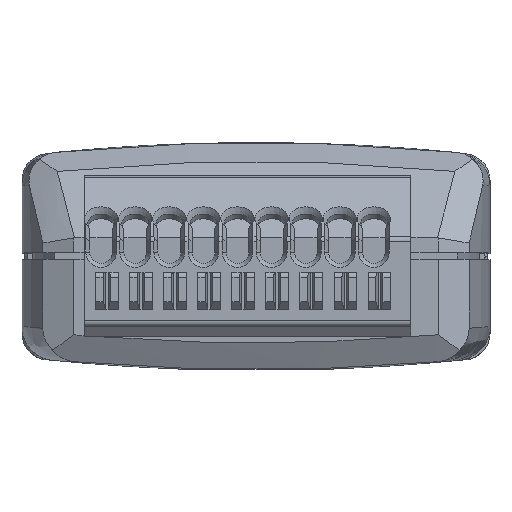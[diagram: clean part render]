
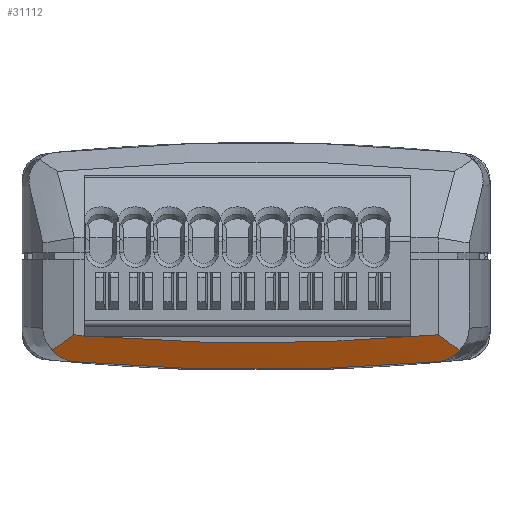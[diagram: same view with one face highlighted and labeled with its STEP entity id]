
A CAD part, top view. The second image highlights one B-rep face of the part: STEP entity #31112.
In plain terms, the highlighted conical face has half-angle 63.435 degrees and reference radius 152.625 mm.
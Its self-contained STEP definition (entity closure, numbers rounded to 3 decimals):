
#97=CONICAL_SURFACE('',#33193,152.625,1.107);
#544=(
BOUNDED_CURVE()
B_SPLINE_CURVE(2,(#65074,#65075,#65076),.UNSPECIFIED.,.F.,.F.)
B_SPLINE_CURVE_WITH_KNOTS((3,3),(0.,0.058),.UNSPECIFIED.)
CURVE()
GEOMETRIC_REPRESENTATION_ITEM()
RATIONAL_B_SPLINE_CURVE((1.,1.,1.))
REPRESENTATION_ITEM('')
);
#545=(
BOUNDED_CURVE()
B_SPLINE_CURVE(2,(#65078,#65079,#65080),.UNSPECIFIED.,.F.,.F.)
B_SPLINE_CURVE_WITH_KNOTS((3,3),(0.555,0.561),
 .UNSPECIFIED.)
CURVE()
GEOMETRIC_REPRESENTATION_ITEM()
RATIONAL_B_SPLINE_CURVE((1.,1.,1.))
REPRESENTATION_ITEM('')
);
#2621=FACE_OUTER_BOUND('',#4429,.T.);
#4429=EDGE_LOOP('',(#25991,#25992,#25993,#25994,#25995,#25996,#25997,#25998,
#25999));
#5573=CIRCLE('',#33194,153.625);
#5574=CIRCLE('',#33195,151.625);
#5575=CIRCLE('',#33196,151.625);
#6937=B_SPLINE_CURVE_WITH_KNOTS('',3,(#65044,#65045,#65046,#65047,#65048,
#65049,#65050,#65051),.UNSPECIFIED.,.F.,.F.,(4,2,2,4),(0.,0.092,
0.177,0.197),.UNSPECIFIED.);
#6938=B_SPLINE_CURVE_WITH_KNOTS('',3,(#65056,#65057,#65058,#65059,#65060,
#65061,#65062,#65063,#65064,#65065),.UNSPECIFIED.,.F.,.F.,(4,2,2,2,4),(0.19,
0.197,0.282,0.334,0.387),
 .UNSPECIFIED.);
#6939=B_SPLINE_CURVE_WITH_KNOTS('',3,(#65067,#65068,#65069,#65070),
 .UNSPECIFIED.,.F.,.F.,(4,4),(0.,0.205),.UNSPECIFIED.);
#6940=B_SPLINE_CURVE_WITH_KNOTS('',3,(#65083,#65084,#65085,#65086),
 .UNSPECIFIED.,.F.,.F.,(4,4),(0.,0.205),.UNSPECIFIED.);
#14427=VERTEX_POINT('',#65025);
#14429=VERTEX_POINT('',#65039);
#14430=VERTEX_POINT('',#65053);
#14431=VERTEX_POINT('',#65055);
#14432=VERTEX_POINT('',#65066);
#14433=VERTEX_POINT('',#65071);
#14434=VERTEX_POINT('',#65073);
#14435=VERTEX_POINT('',#65077);
#14436=VERTEX_POINT('',#65081);
#18469=EDGE_CURVE('',#14429,#14427,#6937,.T.);
#18470=EDGE_CURVE('',#14429,#14430,#5573,.T.);
#18471=EDGE_CURVE('',#14431,#14430,#6938,.T.);
#18472=EDGE_CURVE('',#14432,#14431,#6939,.T.);
#18473=EDGE_CURVE('',#14432,#14433,#5574,.T.);
#18474=EDGE_CURVE('',#14433,#14434,#544,.T.);
#18475=EDGE_CURVE('',#14434,#14435,#545,.T.);
#18476=EDGE_CURVE('',#14435,#14436,#5575,.T.);
#18477=EDGE_CURVE('',#14436,#14427,#6940,.T.);
#25991=ORIENTED_EDGE('',*,*,#18469,.F.);
#25992=ORIENTED_EDGE('',*,*,#18470,.T.);
#25993=ORIENTED_EDGE('',*,*,#18471,.F.);
#25994=ORIENTED_EDGE('',*,*,#18472,.F.);
#25995=ORIENTED_EDGE('',*,*,#18473,.T.);
#25996=ORIENTED_EDGE('',*,*,#18474,.T.);
#25997=ORIENTED_EDGE('',*,*,#18475,.T.);
#25998=ORIENTED_EDGE('',*,*,#18476,.T.);
#25999=ORIENTED_EDGE('',*,*,#18477,.T.);
#31112=ADVANCED_FACE('',(#2621),#97,.T.);
#33193=AXIS2_PLACEMENT_3D('',#65052,#38930,#38931);
#33194=AXIS2_PLACEMENT_3D('',#65054,#38932,#38933);
#33195=AXIS2_PLACEMENT_3D('',#65072,#38934,#38935);
#33196=AXIS2_PLACEMENT_3D('',#65082,#38936,#38937);
#38930=DIRECTION('center_axis',(0.,0.,-1.));
#38931=DIRECTION('ref_axis',(0.,-1.,0.));
#38932=DIRECTION('center_axis',(0.,0.,1.));
#38933=DIRECTION('ref_axis',(0.,-1.,0.));
#38934=DIRECTION('center_axis',(0.,0.,-1.));
#38935=DIRECTION('ref_axis',(0.,-1.,0.));
#38936=DIRECTION('center_axis',(0.,0.,-1.));
#38937=DIRECTION('ref_axis',(0.,-1.,0.));
#65025=CARTESIAN_POINT('',(-15.205,-7.042,10.944));
#65039=CARTESIAN_POINT('',(-13.554,-7.901,10.594));
#65044=CARTESIAN_POINT('Ctrl Pts',(-13.554,-7.901,
10.594));
#65045=CARTESIAN_POINT('Ctrl Pts',(-13.858,-7.874,10.594));
#65046=CARTESIAN_POINT('Ctrl Pts',(-14.154,-7.797,
10.619));
#65047=CARTESIAN_POINT('Ctrl Pts',(-14.677,-7.546,
10.719));
#65048=CARTESIAN_POINT('Ctrl Pts',(-14.9,-7.384,
10.789));
#65049=CARTESIAN_POINT('Ctrl Pts',(-15.126,-7.14,10.899));
#65050=CARTESIAN_POINT('Ctrl Pts',(-15.166,-7.092,
10.921));
#65051=CARTESIAN_POINT('Ctrl Pts',(-15.205,-7.042,
10.944));
#65052=CARTESIAN_POINT('Origin',(0.,145.125,
11.094));
#65053=CARTESIAN_POINT('',(13.554,-7.901,10.594));
#65054=CARTESIAN_POINT('Origin',(0.,145.125,
10.594));
#65055=CARTESIAN_POINT('',(15.205,-7.042,10.944));
#65056=CARTESIAN_POINT('Ctrl Pts',(15.205,-7.042,10.944));
#65057=CARTESIAN_POINT('Ctrl Pts',(15.192,-7.059,10.936));
#65058=CARTESIAN_POINT('Ctrl Pts',(15.179,-7.075,10.929));
#65059=CARTESIAN_POINT('Ctrl Pts',(14.997,-7.298,10.827));
#65060=CARTESIAN_POINT('Ctrl Pts',(14.787,-7.472,10.751));
#65061=CARTESIAN_POINT('Ctrl Pts',(14.396,-7.688,10.662));
#65062=CARTESIAN_POINT('Ctrl Pts',(14.238,-7.753,10.636));
#65063=CARTESIAN_POINT('Ctrl Pts',(13.904,-7.853,10.602));
#65064=CARTESIAN_POINT('Ctrl Pts',(13.73,-7.885,10.594));
#65065=CARTESIAN_POINT('Ctrl Pts',(13.554,-7.901,10.594));
#65066=CARTESIAN_POINT('',(13.637,-5.886,11.594));
#65067=CARTESIAN_POINT('Ctrl Pts',(13.637,-5.886,11.594));
#65068=CARTESIAN_POINT('Ctrl Pts',(14.158,-6.273,11.377));
#65069=CARTESIAN_POINT('Ctrl Pts',(14.681,-6.658,11.161));
#65070=CARTESIAN_POINT('Ctrl Pts',(15.205,-7.042,10.944));
#65071=CARTESIAN_POINT('',(-12.277,-6.002,11.594));
#65072=CARTESIAN_POINT('Origin',(0.,145.125,
11.594));
#65073=CARTESIAN_POINT('',(-12.85,-6.002,11.57));
#65074=CARTESIAN_POINT('Ctrl Pts',(-12.277,-6.002,
11.594));
#65075=CARTESIAN_POINT('Ctrl Pts',(-12.564,-6.002,
11.582));
#65076=CARTESIAN_POINT('Ctrl Pts',(-12.85,-6.002,
11.57));
#65077=CARTESIAN_POINT('',(-12.85,-5.955,11.594));
#65078=CARTESIAN_POINT('Ctrl Pts',(-12.85,-6.002,
11.57));
#65079=CARTESIAN_POINT('Ctrl Pts',(-12.85,-5.978,
11.582));
#65080=CARTESIAN_POINT('Ctrl Pts',(-12.85,-5.955,
11.594));
#65081=CARTESIAN_POINT('',(-13.637,-5.886,11.594));
#65082=CARTESIAN_POINT('Origin',(0.,145.125,
11.594));
#65083=CARTESIAN_POINT('Ctrl Pts',(-13.637,-5.886,
11.594));
#65084=CARTESIAN_POINT('Ctrl Pts',(-14.158,-6.273,
11.377));
#65085=CARTESIAN_POINT('Ctrl Pts',(-14.681,-6.658,
11.161));
#65086=CARTESIAN_POINT('Ctrl Pts',(-15.205,-7.042,
10.944));
